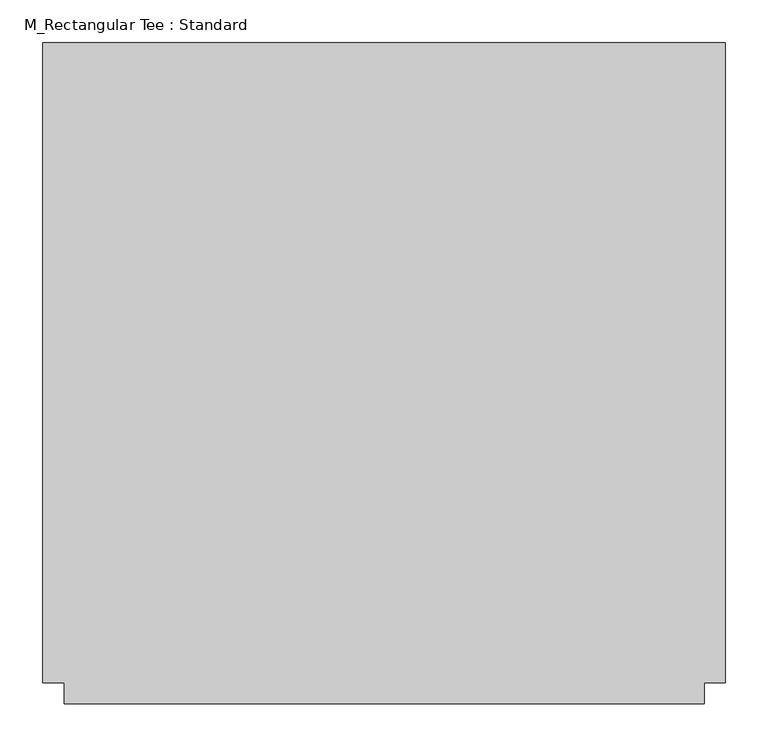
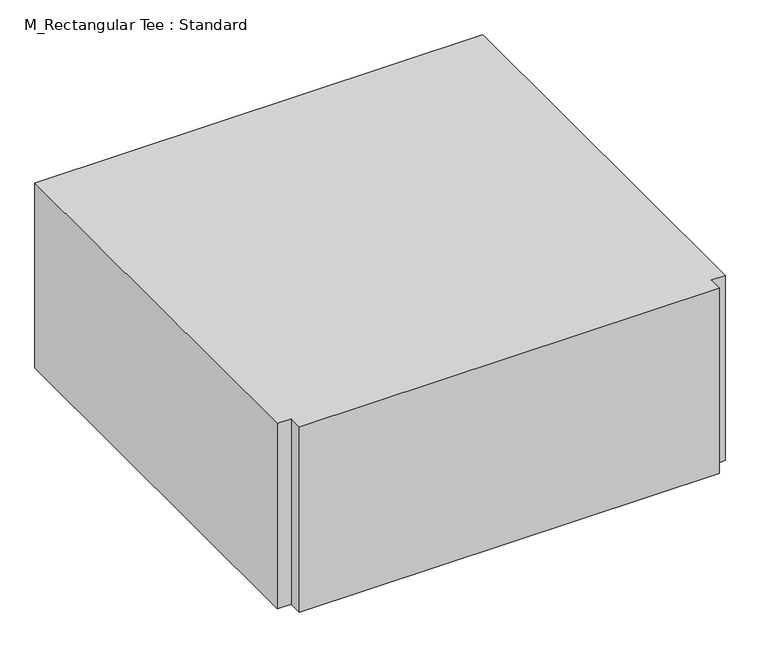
"""IFC4 building model written with IfcOpenShell, lengths in millimetres: duct fitting geometry, M_Rectangular Tee : Standard."""

from ifc_helpers import new_model, si_unit, frame, origin, place, context, project, spatial, polyline, outline, extrude, source, transform, mapped, element, save


def m_rectangular_tee_standard_0196e6dc(model_context):
    return source(origin(), model_context, "Body", "SweptSolid", [
        extrude(outline(polyline([(-400.0, -375.0), (-400.0, 375.0), (400.0, 375.0), (400.0, -375.0), (375.0, -375.0), (375.0, -400.0), (-375.0, -400.0), (-375.0, -375.0), (-400.0, -375.0)])), frame((0.0, 0.0, -175.0), z_axis=(0.0, 0.0, 1.0), x_axis=(1.0, 0.0, 0.0)), (0.0, 0.0, 1.0), 350.0),
        extrude(outline(polyline([(-400.0, 375.0), (400.0, 375.0), (400.0, -375.0), (375.0, -375.0), (375.0, -400.0), (-375.0, -400.0), (-375.0, -375.0), (-400.0, -375.0), (-400.0, 375.0)])), frame((0.0, 0.0, -175.0), z_axis=(0.0, 0.0, 1.0), x_axis=(1.0, 0.0, 0.0)), (0.0, 0.0, 1.0), 350.0),
        extrude(outline(polyline([(-400.0, -375.0), (-400.0, 375.0), (400.0, 375.0), (400.0, -375.0), (375.0, -375.0), (375.0, -400.0), (-375.0, -400.0), (-375.0, -375.0), (-400.0, -375.0)])), frame((0.0, 0.0, -175.0), z_axis=(0.0, 0.0, 1.0), x_axis=(1.0, 0.0, 0.0)), (0.0, 0.0, 1.0), 350.0),
    ])


if __name__ == "__main__":
    model = new_model("IFC4")
    model_context = context("Model", 3, world=origin())
    ifc_project = project(units=[si_unit("LENGTHUNIT", "METRE", prefix="MILLI")], contexts=[model_context])
    site = spatial("IfcSite", under=ifc_project)
    building = spatial("IfcBuilding", under=site)
    placement = place(None, origin())
    m_rectangular_tee_standard_shape = m_rectangular_tee_standard_0196e6dc(model_context)
    element("IfcDuctFitting", 1, ObjectType="M_Rectangular Tee : Standard", at=placement, inside=building, context=model_context, shape_type="MappedRepresentation", body=[
        mapped(m_rectangular_tee_standard_shape, transform((0.0, 0.0, 0.0), x_axis=(1.0, 0.0, 0.0), y_axis=(0.0, 1.0, 0.0), z_axis=(0.0, 0.0, 1.0))),
    ])
    save(model, "model.ifc")
